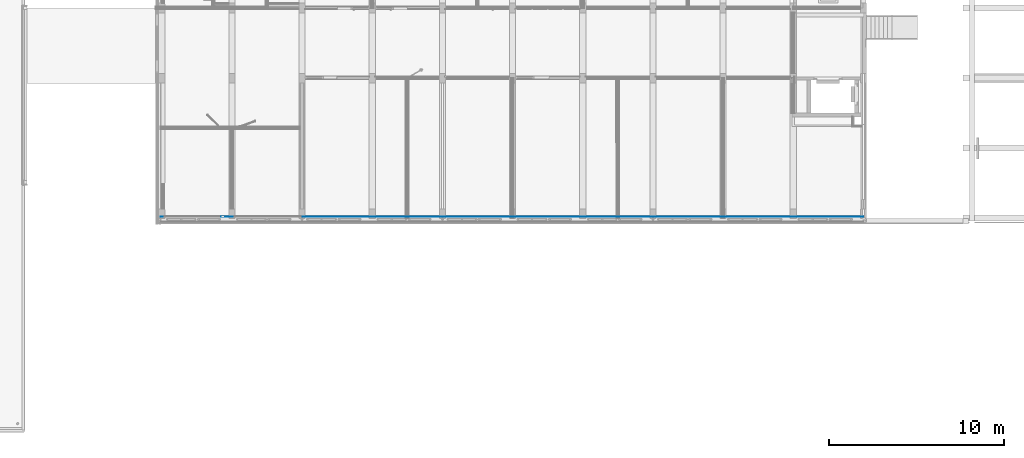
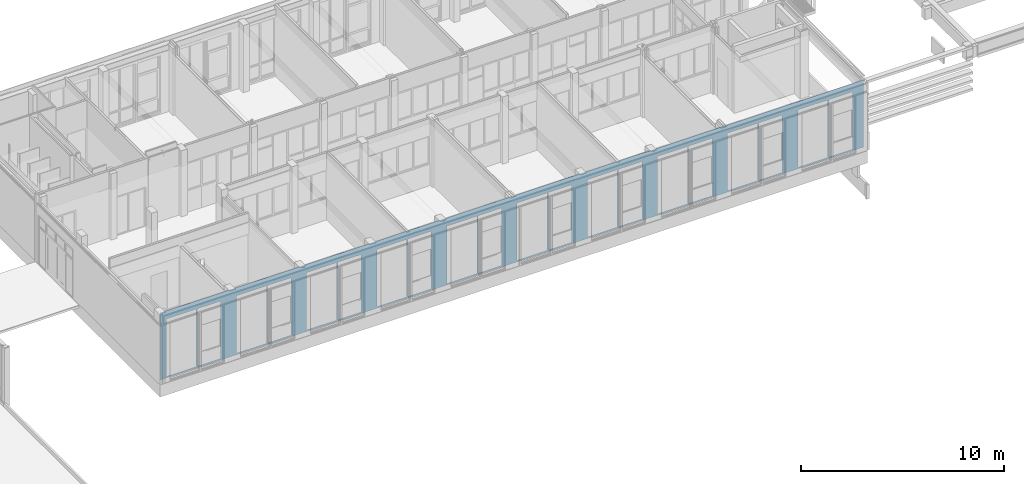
# One storey, part 29 of 54: 1 building element part, 20 openings, 1 element without a shape of its own.
"""IFC2X3 building model written with IfcOpenShell, lengths in millimetres."""

from ifc_helpers import new_model, entity, si_unit, converted_unit, derived_unit, money_unit, direction, frame, origin_with_axes, place, context, subcontext, project, spatial, faceted_brep, material, type_object, element, aggregate, save


model = new_model("IFC2X3")

# Units and contexts
model_context = context("Model", 3, precision=0.01, world=origin_with_axes(), true_north=direction((0.0, 1.0)))
body_context = subcontext(model_context, "Body", "Model", "MODEL_VIEW")
ifc_project = project(units=[si_unit("LENGTHUNIT", "METRE", prefix="MILLI"), si_unit("AREAUNIT", "SQUARE_METRE"), si_unit("VOLUMEUNIT", "CUBIC_METRE"), converted_unit("PLANEANGLEUNIT", "DEGREE", entity("IfcPlaneAngleMeasure", 0.0174532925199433), si_unit("PLANEANGLEUNIT", "RADIAN"), dimensions=[0, 0, 0, 0, 0, 0, 0]), money_unit("EUR"), converted_unit("TIMEUNIT", "Year", entity("IfcTimeMeasure", 31557600.0), si_unit("TIMEUNIT", "SECOND"), dimensions=[0, 0, 1, 0, 0, 0, 0]), si_unit("MASSUNIT", "GRAM", prefix="KILO"), si_unit("THERMODYNAMICTEMPERATUREUNIT", "DEGREE_CELSIUS"), si_unit("LUMINOUSINTENSITYUNIT", "LUMEN"), si_unit("ENERGYUNIT", "JOULE", prefix="MEGA"), derived_unit("THERMALCONDUCTANCEUNIT", [(si_unit("POWERUNIT", "WATT"), 1), (si_unit("LENGTHUNIT", "METRE"), -1), (si_unit("THERMODYNAMICTEMPERATUREUNIT", "KELVIN"), -1)]), derived_unit("SPECIFICHEATCAPACITYUNIT", [(si_unit("ENERGYUNIT", "JOULE"), 1), (si_unit("MASSUNIT", "GRAM", prefix="KILO"), -1), (si_unit("THERMODYNAMICTEMPERATUREUNIT", "KELVIN"), -1)]), derived_unit("MASSDENSITYUNIT", [(si_unit("MASSUNIT", "GRAM", prefix="KILO"), 1), (si_unit("VOLUMEUNIT", "CUBIC_METRE"), -1)])], contexts=[model_context])

# Site, building, storey
site_placement = place(None, origin_with_axes())
site = spatial("IfcSite", under=ifc_project, at=site_placement, Name="<site naam>", CompositionType="ELEMENT")
building_placement = place(site_placement, origin_with_axes())
building = spatial("IfcBuilding", under=site, at=building_placement, Name="<Naam gebouw>", CompositionType="ELEMENT")
storey_placement = place(building_placement, frame((0.0, 0.0, 8500.0), z_axis=(0.0, 0.0, 1.0), x_axis=(1.0, 0.0, 0.0)))
storey = spatial("IfcBuildingStorey", under=building, at=storey_placement, Name="02 2e verdieping", CompositionType="ELEMENT", Elevation=8500.0)

# Wall, openings, building element part
wall_type = type_object("IfcWallType", Name="HSB_285 gevelbeplating 420", PredefinedType="NOTDEFINED")
wall_placement = place(storey_placement, frame((52000.00000000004, -298.0000000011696, 0.0), z_axis=(0.0, 0.0, 1.0), x_axis=(-1.0, 0.0, 0.0)))
wall = element("IfcWall", 1, at=wall_placement, inside=storey, type_object=wall_type, Name="21_Binnenwand_HSB_285")
opening_1_placement = place(wall_placement, frame((38888.99998871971, 0.0, 99.99999999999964), z_axis=(0.0, 0.0, 1.0), x_axis=(1.0, 0.0, 0.0)))
element("IfcOpeningElement", 2, at=opening_1_placement, cuts=wall, Name="21_BU-A-22a_305", context=body_context, shape_type="Brep", body=[
    faceted_brep([(-850.9999999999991, -212.9999999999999, 0.0), (-850.9999999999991, -212.9999999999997, 3450.000000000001), (-850.9999999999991, 1.000000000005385, 3450.000000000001), (-850.9999999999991, 1.000000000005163, 0.0), (-850.9999999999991, -421.0000000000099, 0.0), (-850.9999999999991, -421.0000000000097, 3450.000000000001), (850.9999999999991, -212.9999999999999, 3450.000000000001), (851.0000000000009, 1.000000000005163, 3450.000000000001), (851.0000000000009, 1.000000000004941, 0.0), (850.9999999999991, -213.0000000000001, 0.0), (850.9999999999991, -421.00000000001, 0.0), (850.9999999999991, -421.0000000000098, 3450.000000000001)], [[[0, 1, 2, 3]], [[1, 0, 4, 5]], [[1, 6, 7, 2]], [[7, 8, 3, 2]], [[9, 0, 3, 8]], [[0, 9, 10, 4]], [[5, 4, 10, 11]], [[6, 1, 5, 11]], [[6, 9, 8, 7]], [[9, 6, 11, 10]]]),
])
opening_2_placement = place(wall_placement, frame((37298.99999999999, 0.0, 99.99999999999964), z_axis=(0.0, 0.0, 1.0), x_axis=(1.0, 0.0, 0.0)))
element("IfcOpeningElement", 3, at=opening_2_placement, cuts=wall, Name="21_BU-A-22b_305", context=body_context, shape_type="Brep", body=[
    faceted_brep([(-663.0000000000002, -212.9999999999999, 0.0), (-663.0000000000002, -212.9999999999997, 3450.000000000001), (-663.0000000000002, 1.000000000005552, 3450.000000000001), (-663.0000000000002, 1.00000000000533, 0.0), (-663.0000000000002, -421.0000000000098, 0.0), (-663.0000000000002, -421.0000000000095, 3450.000000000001), (663.0000000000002, -212.9999999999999, 3450.000000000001), (663.0000000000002, 1.000000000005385, 3450.000000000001), (663.0000000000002, 1.000000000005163, 0.0), (663.0000000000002, -213.0000000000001, 0.0), (663.0000000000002, -421.0000000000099, 0.0), (663.0000000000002, -421.0000000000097, 3450.000000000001)], [[[0, 1, 2, 3]], [[1, 0, 4, 5]], [[1, 6, 7, 2]], [[7, 8, 3, 2]], [[9, 0, 3, 8]], [[0, 9, 10, 4]], [[5, 4, 10, 11]], [[6, 1, 5, 11]], [[6, 9, 8, 7]], [[9, 6, 11, 10]]]),
])
opening_3_placement = place(wall_placement, frame((33298.99999999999, 0.0, 99.99999999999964), z_axis=(0.0, 0.0, 1.0), x_axis=(1.0, 0.0, 0.0)))
element("IfcOpeningElement", 4, at=opening_3_placement, cuts=wall, Name="21_BU-A-22b_305", context=body_context, shape_type="Brep", body=[
    faceted_brep([(-663.0000000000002, -212.9999999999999, 0.0), (-663.0000000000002, -212.9999999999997, 3450.000000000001), (-663.0000000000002, 1.000000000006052, 3450.000000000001), (-663.0000000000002, 1.00000000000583, 0.0), (-663.0000000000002, -421.0000000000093, 0.0), (-663.0000000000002, -421.000000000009, 3450.000000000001), (663.0000000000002, -212.9999999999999, 3450.000000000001), (663.0000000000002, 1.000000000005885, 3450.000000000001), (663.0000000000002, 1.000000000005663, 0.0), (663.0000000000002, -213.0000000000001, 0.0), (663.0000000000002, -421.0000000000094, 0.0), (663.0000000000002, -421.0000000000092, 3450.000000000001)], [[[0, 1, 2, 3]], [[1, 0, 4, 5]], [[1, 6, 7, 2]], [[7, 8, 3, 2]], [[9, 0, 3, 8]], [[0, 9, 10, 4]], [[5, 4, 10, 11]], [[6, 1, 5, 11]], [[6, 9, 8, 7]], [[9, 6, 11, 10]]]),
])
opening_4_placement = place(wall_placement, frame((34888.99998871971, 0.0, 99.99999999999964), z_axis=(0.0, 0.0, 1.0), x_axis=(1.0, 0.0, 0.0)))
element("IfcOpeningElement", 5, at=opening_4_placement, cuts=wall, Name="21_BU-A-22a_305", context=body_context, shape_type="Brep", body=[
    faceted_brep([(-850.9999999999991, -212.9999999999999, 0.0), (-850.9999999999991, -212.9999999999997, 3450.000000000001), (-850.9999999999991, 1.000000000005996, 3450.000000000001), (-850.9999999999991, 1.000000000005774, 0.0), (-850.9999999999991, -421.0000000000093, 0.0), (-850.9999999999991, -421.0000000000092, 3450.000000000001), (850.9999999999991, -212.9999999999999, 3450.000000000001), (850.9999999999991, 1.000000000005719, 3450.000000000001), (850.9999999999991, 1.000000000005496, 0.0), (850.9999999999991, -213.0000000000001, 0.0), (850.9999999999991, -421.0000000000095, 0.0), (850.9999999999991, -421.0000000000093, 3450.000000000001)], [[[0, 1, 2, 3]], [[1, 0, 4, 5]], [[1, 6, 7, 2]], [[7, 8, 3, 2]], [[9, 0, 3, 8]], [[0, 9, 10, 4]], [[5, 4, 10, 11]], [[6, 1, 5, 11]], [[6, 9, 8, 7]], [[9, 6, 11, 10]]]),
])
opening_5_placement = place(wall_placement, frame((18888.99998871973, 0.0, 99.99999999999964), z_axis=(0.0, 0.0, 1.0), x_axis=(1.0, 0.0, 0.0)))
element("IfcOpeningElement", 6, at=opening_5_placement, cuts=wall, Name="21_BU-A-22a_305", context=body_context, shape_type="Brep", body=[
    faceted_brep([(-850.9999999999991, -212.9999999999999, 0.0), (-850.9999999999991, -212.9999999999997, 3450.000000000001), (-850.9999999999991, 1.000000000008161, 3450.000000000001), (-850.9999999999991, 1.000000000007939, 0.0), (-850.9999999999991, -421.0000000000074, 0.0), (-850.9999999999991, -421.0000000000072, 3450.000000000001), (850.9999999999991, -212.9999999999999, 3450.000000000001), (850.9999999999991, 1.000000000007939, 3450.000000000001), (850.9999999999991, 1.000000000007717, 0.0), (850.9999999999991, -213.0000000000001, 0.0), (850.9999999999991, -421.0000000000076, 0.0), (850.9999999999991, -421.0000000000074, 3450.000000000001)], [[[0, 1, 2, 3]], [[1, 0, 4, 5]], [[1, 6, 7, 2]], [[7, 8, 3, 2]], [[9, 0, 3, 8]], [[0, 9, 10, 4]], [[5, 4, 10, 11]], [[6, 1, 5, 11]], [[6, 9, 8, 7]], [[9, 6, 11, 10]]]),
])
opening_6_placement = place(wall_placement, frame((22888.98053643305, 0.0, 99.99999999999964), z_axis=(0.0, 0.0, 1.0), x_axis=(1.0, 0.0, 0.0)))
element("IfcOpeningElement", 7, at=opening_6_placement, cuts=wall, Name="21_BU-A-22a_305", context=body_context, shape_type="Brep", body=[
    faceted_brep([(-850.9999999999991, -212.9999999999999, 0.0), (-850.9999999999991, -212.9999999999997, 3450.000000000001), (-850.9999999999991, 1.000000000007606, 3450.000000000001), (-850.9999999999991, 1.000000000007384, 0.0), (-850.9999999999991, -421.0000000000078, 0.0), (-850.9999999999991, -421.0000000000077, 3450.000000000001), (850.9999999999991, -212.9999999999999, 3450.000000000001), (850.9999999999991, 1.000000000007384, 3450.000000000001), (850.9999999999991, 1.000000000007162, 0.0), (850.9999999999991, -213.0000000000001, 0.0), (850.9999999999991, -421.0000000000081, 0.0), (850.9999999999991, -421.0000000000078, 3450.000000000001)], [[[0, 1, 2, 3]], [[1, 0, 4, 5]], [[1, 6, 7, 2]], [[7, 8, 3, 2]], [[9, 0, 3, 8]], [[0, 9, 10, 4]], [[5, 4, 10, 11]], [[6, 1, 5, 11]], [[6, 9, 8, 7]], [[9, 6, 11, 10]]]),
])
opening_7_placement = place(wall_placement, frame((17299.00000000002, 0.0, 99.99999999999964), z_axis=(0.0, 0.0, 1.0), x_axis=(1.0, 0.0, 0.0)))
element("IfcOpeningElement", 8, at=opening_7_placement, cuts=wall, Name="21_BU-A-22b_305", context=body_context, shape_type="Brep", body=[
    faceted_brep([(-662.9999999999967, -212.9999999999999, 0.0), (-662.9999999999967, -212.9999999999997, 3450.000000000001), (-662.9999999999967, 1.000000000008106, 3450.000000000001), (-662.9999999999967, 1.000000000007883, 0.0), (-662.9999999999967, -421.0000000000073, 0.0), (-662.9999999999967, -421.000000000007, 3450.000000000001), (662.9999999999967, -212.9999999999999, 3450.000000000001), (662.9999999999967, 1.000000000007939, 3450.000000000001), (662.9999999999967, 1.000000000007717, 0.0), (662.9999999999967, -213.0000000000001, 0.0), (662.9999999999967, -421.0000000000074, 0.0), (662.9999999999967, -421.0000000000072, 3450.000000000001)], [[[0, 1, 2, 3]], [[1, 0, 4, 5]], [[1, 6, 7, 2]], [[7, 8, 3, 2]], [[9, 0, 3, 8]], [[0, 9, 10, 4]], [[5, 4, 10, 11]], [[6, 1, 5, 11]], [[6, 9, 8, 7]], [[9, 6, 11, 10]]]),
])
opening_8_placement = place(wall_placement, frame((26888.98052515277, 0.0, 99.99999999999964), z_axis=(0.0, 0.0, 1.0), x_axis=(1.0, 0.0, 0.0)))
element("IfcOpeningElement", 9, at=opening_8_placement, cuts=wall, Name="21_BU-A-22a_305", context=body_context, shape_type="Brep", body=[
    faceted_brep([(-850.9999999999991, -212.9999999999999, 0.0), (-850.9999999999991, -212.9999999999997, 3450.000000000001), (-850.9999999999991, 1.000000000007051, 3450.000000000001), (-850.9999999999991, 1.000000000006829, 0.0), (-850.9999999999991, -421.0000000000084, 0.0), (-850.9999999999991, -421.0000000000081, 3450.000000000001), (850.9999999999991, -212.9999999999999, 3450.000000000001), (850.9999999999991, 1.000000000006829, 3450.000000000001), (850.9999999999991, 1.000000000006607, 0.0), (850.9999999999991, -213.0000000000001, 0.0), (850.9999999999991, -421.0000000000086, 0.0), (850.9999999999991, -421.0000000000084, 3450.000000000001)], [[[0, 1, 2, 3]], [[1, 0, 4, 5]], [[1, 6, 7, 2]], [[7, 8, 3, 2]], [[9, 0, 3, 8]], [[0, 9, 10, 4]], [[5, 4, 10, 11]], [[6, 1, 5, 11]], [[6, 9, 8, 7]], [[9, 6, 11, 10]]]),
])
opening_9_placement = place(wall_placement, frame((21298.98054771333, 0.0, 99.99999999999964), z_axis=(0.0, 0.0, 1.0), x_axis=(1.0, 0.0, 0.0)))
element("IfcOpeningElement", 10, at=opening_9_placement, cuts=wall, Name="21_BU-A-22b_305", context=body_context, shape_type="Brep", body=[
    faceted_brep([(-663.0000000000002, -212.9999999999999, 0.0), (-663.0000000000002, -212.9999999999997, 3450.000000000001), (-663.0000000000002, 1.000000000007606, 3450.000000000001), (-663.0000000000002, 1.000000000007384, 0.0), (-663.0000000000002, -421.0000000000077, 0.0), (-663.0000000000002, -421.0000000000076, 3450.000000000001), (663.0000000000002, -212.9999999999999, 3450.000000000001), (663.0000000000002, 1.000000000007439, 3450.000000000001), (663.0000000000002, 1.000000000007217, 0.0), (663.0000000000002, -213.0000000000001, 0.0), (663.0000000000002, -421.0000000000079, 0.0), (663.0000000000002, -421.0000000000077, 3450.000000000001)], [[[0, 1, 2, 3]], [[1, 0, 4, 5]], [[1, 6, 7, 2]], [[7, 8, 3, 2]], [[9, 0, 3, 8]], [[0, 9, 10, 4]], [[5, 4, 10, 11]], [[6, 1, 5, 11]], [[6, 9, 8, 7]], [[9, 6, 11, 10]]]),
])
opening_10_placement = place(wall_placement, frame((10889.00000000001, 0.0, 99.99999999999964), z_axis=(0.0, 0.0, 1.0), x_axis=(1.0, 0.0, 0.0)))
element("IfcOpeningElement", 11, at=opening_10_placement, cuts=wall, Name="21_BU-A-22a_305", context=body_context, shape_type="Brep", body=[
    faceted_brep([(-850.9999999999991, -212.9999999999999, 0.0), (-850.9999999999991, -212.9999999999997, 3450.000000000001), (-850.9999999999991, 1.000000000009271, 3450.000000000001), (-850.9999999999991, 1.000000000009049, 0.0), (-850.9999999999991, -421.0000000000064, 0.0), (-850.9999999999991, -421.0000000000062, 3450.000000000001), (850.9999999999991, -212.9999999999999, 3450.000000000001), (850.9999999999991, 1.000000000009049, 3450.000000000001), (850.9999999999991, 1.000000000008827, 0.0), (850.9999999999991, -213.0000000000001, 0.0), (850.9999999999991, -421.0000000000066, 0.0), (850.9999999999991, -421.0000000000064, 3450.000000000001)], [[[0, 1, 2, 3]], [[1, 0, 4, 5]], [[1, 6, 7, 2]], [[7, 8, 3, 2]], [[9, 0, 3, 8]], [[0, 9, 10, 4]], [[5, 4, 10, 11]], [[6, 1, 5, 11]], [[6, 9, 8, 7]], [[9, 6, 11, 10]]]),
])
opening_11_placement = place(wall_placement, frame((25298.98053643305, 0.0, 99.99999999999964), z_axis=(0.0, 0.0, 1.0), x_axis=(1.0, 0.0, 0.0)))
element("IfcOpeningElement", 12, at=opening_11_placement, cuts=wall, Name="21_BU-A-22b_305", context=body_context, shape_type="Brep", body=[
    faceted_brep([(-663.0000000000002, -212.9999999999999, 0.0), (-663.0000000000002, -212.9999999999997, 3450.000000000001), (-663.0000000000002, 1.000000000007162, 3450.000000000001), (-663.0000000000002, 1.00000000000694, 0.0), (-663.0000000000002, -421.0000000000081, 0.0), (-663.0000000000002, -421.000000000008, 3450.000000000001), (663.0000000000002, -212.9999999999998, 3450.000000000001), (663.0000000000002, 1.000000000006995, 3450.000000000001), (663.0000000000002, 1.000000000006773, 0.0), (663.0000000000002, -213.0000000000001, 0.0), (663.0000000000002, -421.0000000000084, 0.0), (663.0000000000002, -421.0000000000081, 3450.000000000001)], [[[0, 1, 2, 3]], [[1, 0, 4, 5]], [[1, 6, 7, 2]], [[7, 8, 3, 2]], [[9, 0, 3, 8]], [[0, 9, 10, 4]], [[5, 4, 10, 11]], [[6, 1, 5, 11]], [[6, 9, 8, 7]], [[9, 6, 11, 10]]]),
])
opening_12_placement = place(wall_placement, frame((9299.000011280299, 0.0, 99.99999999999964), z_axis=(0.0, 0.0, 1.0), x_axis=(1.0, 0.0, 0.0)))
element("IfcOpeningElement", 13, at=opening_12_placement, cuts=wall, Name="21_BU-A-22b_305", context=body_context, shape_type="Brep", body=[
    faceted_brep([(-662.9999999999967, -212.9999999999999, 0.0), (-662.9999999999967, -212.9999999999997, 3450.000000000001), (-662.9999999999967, 1.00000000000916, 3450.000000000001), (-662.9999999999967, 1.000000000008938, 0.0), (-662.9999999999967, -421.0000000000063, 0.0), (-662.9999999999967, -421.000000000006, 3450.000000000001), (662.9999999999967, -212.9999999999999, 3450.000000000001), (662.9999999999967, 1.000000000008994, 3450.000000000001), (662.9999999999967, 1.000000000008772, 0.0), (662.9999999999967, -213.0000000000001, 0.0), (662.9999999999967, -421.0000000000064, 0.0), (662.9999999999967, -421.0000000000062, 3450.000000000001)], [[[0, 1, 2, 3]], [[1, 0, 4, 5]], [[1, 6, 7, 2]], [[7, 8, 3, 2]], [[9, 0, 3, 8]], [[0, 9, 10, 4]], [[5, 4, 10, 11]], [[6, 1, 5, 11]], [[6, 9, 8, 7]], [[9, 6, 11, 10]]]),
])
opening_13_placement = place(wall_placement, frame((5299.000011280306, 0.0, 99.99999999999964), z_axis=(0.0, 0.0, 1.0), x_axis=(1.0, 0.0, 0.0)))
element("IfcOpeningElement", 14, at=opening_13_placement, cuts=wall, Name="21_BU-A-22b_305", context=body_context, shape_type="Brep", body=[
    faceted_brep([(-662.9999999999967, -212.9999999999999, 0.0), (-662.9999999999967, -212.9999999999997, 3450.000000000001), (-662.9999999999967, 1.000000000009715, 3450.000000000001), (-662.9999999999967, 1.000000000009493, 0.0), (-662.9999999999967, -421.0000000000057, 0.0), (-662.9999999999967, -421.0000000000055, 3450.000000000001), (662.9999999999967, -212.9999999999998, 3450.000000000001), (662.9999999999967, 1.000000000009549, 3450.000000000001), (662.9999999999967, 1.000000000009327, 0.0), (662.9999999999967, -213.0, 0.0), (662.9999999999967, -421.0000000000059, 0.0), (662.9999999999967, -421.0000000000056, 3450.000000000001)], [[[0, 1, 2, 3]], [[1, 0, 4, 5]], [[1, 6, 7, 2]], [[7, 8, 3, 2]], [[9, 0, 3, 8]], [[0, 9, 10, 4]], [[5, 4, 10, 11]], [[6, 1, 5, 11]], [[6, 9, 8, 7]], [[9, 6, 11, 10]]]),
])
opening_14_placement = place(wall_placement, frame((2889.000000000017, 0.0, 99.99999999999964), z_axis=(0.0, 0.0, 1.0), x_axis=(1.0, 0.0, 0.0)))
element("IfcOpeningElement", 15, at=opening_14_placement, cuts=wall, Name="21_BU-A-22a_305", context=body_context, shape_type="Brep", body=[
    faceted_brep([(-850.9999999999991, -212.9999999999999, 0.0), (-850.9999999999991, -212.9999999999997, 3450.000000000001), (-850.9999999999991, 1.000000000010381, 3450.000000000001), (-850.9999999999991, 1.000000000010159, 0.0), (-850.9999999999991, -421.0000000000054, 0.0), (-850.9999999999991, -421.0000000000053, 3450.000000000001), (850.9999999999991, -212.9999999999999, 3450.000000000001), (850.9999999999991, 1.000000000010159, 3450.000000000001), (850.9999999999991, 1.000000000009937, 0.0), (850.9999999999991, -213.0000000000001, 0.0), (850.9999999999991, -421.0000000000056, 0.0), (850.9999999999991, -421.0000000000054, 3450.000000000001)], [[[0, 1, 2, 3]], [[1, 0, 4, 5]], [[1, 6, 7, 2]], [[7, 8, 3, 2]], [[9, 0, 3, 8]], [[0, 9, 10, 4]], [[5, 4, 10, 11]], [[6, 1, 5, 11]], [[6, 9, 8, 7]], [[9, 6, 11, 10]]]),
])
opening_15_placement = place(wall_placement, frame((6889.000000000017, 0.0, 99.99999999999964), z_axis=(0.0, 0.0, 1.0), x_axis=(1.0, 0.0, 0.0)))
element("IfcOpeningElement", 16, at=opening_15_placement, cuts=wall, Name="21_BU-A-22a_305", context=body_context, shape_type="Brep", body=[
    faceted_brep([(-850.9999999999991, -212.9999999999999, 0.0), (-850.9999999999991, -212.9999999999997, 3450.000000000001), (-850.9999999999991, 1.000000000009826, 3450.000000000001), (-850.9999999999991, 1.000000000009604, 0.0), (-850.9999999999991, -421.0000000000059, 0.0), (-850.9999999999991, -421.0000000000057, 3450.000000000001), (850.9999999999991, -212.9999999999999, 3450.000000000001), (850.9999999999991, 1.000000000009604, 3450.000000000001), (850.9999999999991, 1.000000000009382, 0.0), (850.9999999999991, -213.0000000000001, 0.0), (850.9999999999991, -421.0000000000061, 0.0), (850.9999999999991, -421.0000000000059, 3450.000000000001)], [[[0, 1, 2, 3]], [[1, 0, 4, 5]], [[1, 6, 7, 2]], [[7, 8, 3, 2]], [[9, 0, 3, 8]], [[0, 9, 10, 4]], [[5, 4, 10, 11]], [[6, 1, 5, 11]], [[6, 9, 8, 7]], [[9, 6, 11, 10]]]),
])
opening_16_placement = place(wall_placement, frame((1299.000011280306, 0.0, 99.99999999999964), z_axis=(0.0, 0.0, 1.0), x_axis=(1.0, 0.0, 0.0)))
element("IfcOpeningElement", 17, at=opening_16_placement, cuts=wall, Name="21_BU-A-22b_305", context=body_context, shape_type="Brep", body=[
    faceted_brep([(-662.9999999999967, -212.9999999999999, 0.0), (-662.9999999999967, -212.9999999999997, 3450.000000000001), (-662.9999999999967, 1.000000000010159, 3450.000000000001), (-662.9999999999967, 1.000000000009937, 0.0), (-662.9999999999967, -421.0000000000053, 0.0), (-662.9999999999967, -421.0000000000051, 3450.000000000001), (662.9999999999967, -212.9999999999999, 3450.000000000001), (662.9999999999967, 1.000000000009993, 3450.000000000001), (662.9999999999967, 1.000000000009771, 0.0), (662.9999999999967, -213.0000000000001, 0.0), (662.9999999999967, -421.0000000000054, 0.0), (662.9999999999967, -421.0000000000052, 3450.000000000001)], [[[0, 1, 2, 3]], [[1, 0, 4, 5]], [[1, 6, 7, 2]], [[7, 8, 3, 2]], [[9, 0, 3, 8]], [[0, 9, 10, 4]], [[5, 4, 10, 11]], [[6, 1, 5, 11]], [[6, 9, 8, 7]], [[9, 6, 11, 10]]]),
])
opening_17_placement = place(wall_placement, frame((14889.00000000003, 0.0, 99.99999999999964), z_axis=(0.0, 0.0, 1.0), x_axis=(1.0, 0.0, 0.0)))
element("IfcOpeningElement", 18, at=opening_17_placement, cuts=wall, Name="21_BU-A-22a_305", context=body_context, shape_type="Brep", body=[
    faceted_brep([(-850.9999999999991, -212.9999999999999, 0.0), (-850.9999999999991, -212.9999999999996, 3450.000000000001), (-850.9999999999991, 1.000000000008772, 3450.000000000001), (-850.9999999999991, 1.00000000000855, 0.0), (-850.9999999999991, -421.0000000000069, 0.0), (-850.9999999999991, -421.0000000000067, 3450.000000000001), (850.9999999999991, -212.9999999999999, 3450.000000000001), (850.9999999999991, 1.000000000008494, 3450.000000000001), (850.9999999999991, 1.000000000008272, 0.0), (850.9999999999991, -213.0000000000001, 0.0), (850.9999999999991, -421.0000000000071, 0.0), (850.9999999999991, -421.0000000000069, 3450.000000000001)], [[[0, 1, 2, 3]], [[1, 0, 4, 5]], [[1, 6, 7, 2]], [[7, 8, 3, 2]], [[9, 0, 3, 8]], [[0, 9, 10, 4]], [[5, 4, 10, 11]], [[6, 1, 5, 11]], [[6, 9, 8, 7]], [[9, 6, 11, 10]]]),
])
opening_18_placement = place(wall_placement, frame((13299.00001128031, 0.0, 99.99999999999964), z_axis=(0.0, 0.0, 1.0), x_axis=(1.0, 0.0, 0.0)))
element("IfcOpeningElement", 19, at=opening_18_placement, cuts=wall, Name="21_BU-A-22b_305", context=body_context, shape_type="Brep", body=[
    faceted_brep([(-662.9999999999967, -212.9999999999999, 0.0), (-662.9999999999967, -212.9999999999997, 3450.000000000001), (-662.9999999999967, 1.000000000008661, 3450.000000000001), (-662.9999999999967, 1.000000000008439, 0.0), (-662.9999999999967, -421.0000000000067, 0.0), (-662.9999999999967, -421.0000000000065, 3450.000000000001), (662.9999999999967, -212.9999999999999, 3450.000000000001), (662.9999999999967, 1.000000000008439, 3450.000000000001), (662.9999999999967, 1.000000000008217, 0.0), (662.9999999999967, -213.0000000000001, 0.0), (662.9999999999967, -421.0000000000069, 0.0), (662.9999999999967, -421.0000000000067, 3450.000000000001)], [[[0, 1, 2, 3]], [[1, 0, 4, 5]], [[1, 6, 7, 2]], [[7, 8, 3, 2]], [[9, 0, 3, 8]], [[0, 9, 10, 4]], [[5, 4, 10, 11]], [[6, 1, 5, 11]], [[6, 9, 8, 7]], [[9, 6, 11, 10]]]),
])
opening_19_placement = place(wall_placement, frame((30889.0499771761, 0.0, 99.99999999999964), z_axis=(0.0, 0.0, 1.0), x_axis=(1.0, 0.0, 0.0)))
element("IfcOpeningElement", 20, at=opening_19_placement, cuts=wall, Name="21_BU-A-22a_305", context=body_context, shape_type="Brep", body=[
    faceted_brep([(-850.9999999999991, -212.9999999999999, 0.0), (-850.9999999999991, -212.9999999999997, 3450.000000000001), (-850.9999999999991, 1.000000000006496, 3450.000000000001), (-850.9999999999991, 1.000000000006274, 0.0), (-850.9999999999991, -421.0000000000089, 0.0), (-850.9999999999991, -421.0000000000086, 3450.000000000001), (850.9999999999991, -212.9999999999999, 3450.000000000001), (850.9999999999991, 1.000000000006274, 3450.000000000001), (850.9999999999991, 1.000000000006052, 0.0), (850.9999999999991, -213.0000000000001, 0.0), (850.9999999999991, -421.0000000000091, 0.0), (850.9999999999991, -421.0000000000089, 3450.000000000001)], [[[0, 1, 2, 3]], [[1, 0, 4, 5]], [[1, 6, 7, 2]], [[7, 8, 3, 2]], [[9, 0, 3, 8]], [[0, 9, 10, 4]], [[5, 4, 10, 11]], [[6, 1, 5, 11]], [[6, 9, 8, 7]], [[9, 6, 11, 10]]]),
])
opening_20_placement = place(wall_placement, frame((29299.04998845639, 0.0, 99.99999999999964), z_axis=(0.0, 0.0, 1.0), x_axis=(1.0, 0.0, 0.0)))
element("IfcOpeningElement", 21, at=opening_20_placement, cuts=wall, Name="21_BU-A-22b_305", context=body_context, shape_type="Brep", body=[
    faceted_brep([(-663.0000000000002, -212.9999999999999, 0.0), (-663.0000000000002, -212.9999999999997, 3450.000000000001), (-663.0000000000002, 1.000000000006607, 3450.000000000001), (-663.0000000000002, 1.000000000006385, 0.0), (-663.0000000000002, -421.0000000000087, 0.0), (-663.0000000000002, -421.0000000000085, 3450.000000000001), (663.0000000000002, -212.9999999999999, 3450.000000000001), (663.0000000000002, 1.00000000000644, 3450.000000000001), (663.0000000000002, 1.000000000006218, 0.0), (663.0000000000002, -213.0000000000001, 0.0), (663.0000000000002, -421.0000000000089, 0.0), (663.0000000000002, -421.0000000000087, 3450.000000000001)], [[[0, 1, 2, 3]], [[1, 0, 4, 5]], [[1, 6, 7, 2]], [[7, 8, 3, 2]], [[9, 0, 3, 8]], [[0, 9, 10, 4]], [[5, 4, 10, 11]], [[6, 1, 5, 11]], [[6, 9, 8, 7]], [[9, 6, 11, 10]]]),
])
ifc_material = material(Name="folie_dampdicht")
building_element_part_placement = place(wall_placement, origin_with_axes())
building_element_part = element("IfcBuildingElementPart", 22, at=building_element_part_placement, material=ifc_material, Name="folie_dampdicht", context=body_context, shape_type="Brep", body=[
    faceted_brep([(13925.02697398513, -392.4999999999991, 3.000000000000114), (13925.02697398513, -392.4999999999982, 0.0), (14076.23975822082, -392.4999999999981, 0.0), (14076.23975822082, -392.499999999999, 3.000000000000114), (15825.00000534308, -392.4999999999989, 3.000000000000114), (15825.00000534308, -392.4999999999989, 0.0), (16174.99997236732, -392.4999999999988, 0.0), (16174.99997236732, -392.4999999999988, 3.000000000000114), (19825.00020866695, -392.4999999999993, 3.000000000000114), (19825.00020866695, -392.4999999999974, 0.0), (20174.99995864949, -392.4999999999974, 0.0), (20174.99995864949, -392.4999999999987, 3.000000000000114), (23824.99995976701, -392.4999999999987, 3.000000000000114), (23824.99995976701, -392.4999999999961, 0.0), (24174.98053496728, -392.499999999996, 0.0), (24174.98053496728, -392.4999999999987, 3.000000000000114), (25926.25096336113, -392.4999999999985, 3.000000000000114), (25926.25096336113, -392.4999999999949, 0.0), (32075.00003674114, -392.4999999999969, 0.0), (32075.00003674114, -392.4999999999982, 3.000000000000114), (39849.99994075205, -392.4999999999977, 3.000000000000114), (39849.99994075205, -392.4999999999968, 0.0), (40065.00000000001, -392.4999999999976, 0.0), (40065.00000000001, -392.4999999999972, 4050.000000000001), (0.0, -392.4999999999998, 4050.000000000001), (0.0, -392.4999999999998, 0.0), (135.0000514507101, -392.4999999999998, 0.0), (135.0000514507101, -392.4999999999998, 3.000000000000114), (3825.000117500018, -392.5000000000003, 3.000000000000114), (3825.000117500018, -392.4999999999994, 0.0), (4174.999990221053, -392.4999999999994, 0.0), (4174.999990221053, -392.4999999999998, 3.000000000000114), (7824.999919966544, -392.4999999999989, 3.000000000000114), (7824.999919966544, -392.4999999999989, 0.0), (8174.999918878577, -392.4999999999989, 0.0), (8174.999918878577, -392.4999999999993, 3.000000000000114), (11824.99997859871, -392.4999999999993, 3.000000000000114), (11824.99997859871, -392.4999999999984, 0.0), (12174.99994562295, -392.4999999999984, 0.0), (12174.99994562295, -392.4999999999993, 3.000000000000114), (13925.02697398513, -391.9999999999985, 3.000000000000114), (13925.02697398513, -392.0000000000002, 0.0), (14076.23975822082, -392.0000000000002, 0.0), (14076.23975822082, -391.9999999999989, 3.000000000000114), (15825.00000534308, -391.9999999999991, 3.000000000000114), (15825.00000534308, -392.0, 0.0), (16174.99997236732, -391.9999999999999, 0.0), (16174.99997236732, -391.9999999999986, 3.000000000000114), (19825.00020866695, -391.9999999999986, 3.000000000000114), (19825.00020866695, -391.9999999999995, 0.0), (20174.99995864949, -391.9999999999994, 0.0), (20174.99995864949, -391.9999999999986, 3.000000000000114), (23824.99995976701, -391.9999999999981, 3.000000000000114), (23824.99995976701, -391.9999999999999, 0.0), (24174.98053496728, -391.9999999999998, 0.0), (24174.98053496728, -391.9999999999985, 3.000000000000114), (25926.25096336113, -391.9999999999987, 3.000000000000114), (25926.25096336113, -392.0000000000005, 0.0), (32075.00003662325, -392.0000000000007, 0.0), (32075.00003662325, -391.999999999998, 3.000000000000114), (39849.99994075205, -391.9999999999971, 3.000000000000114), (39849.99994075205, -391.999999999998, 0.0), (40065.00000000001, -391.9999999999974, 0.0), (40065.00000000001, -391.9999999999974, 4050.000000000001), (0.0, -391.9999999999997, 4050.000000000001), (0.0, -392.0000000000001, 0.0), (135.0000514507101, -392.0000000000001, 0.0), (135.0000514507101, -391.9999999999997, 3.000000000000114), (3825.000117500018, -391.9999999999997, 3.000000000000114), (3825.000117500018, -392.0000000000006, 0.0), (4174.999990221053, -392.0000000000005, 0.0), (4174.999990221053, -391.9999999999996, 3.000000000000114), (7824.999919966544, -391.9999999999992, 3.000000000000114), (7824.999919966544, -392.000000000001, 0.0), (8174.999918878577, -392.0000000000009, 0.0), (8174.999918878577, -391.9999999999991, 3.000000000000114), (11824.99997859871, -391.9999999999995, 3.000000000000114), (11824.99997859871, -392.0000000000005, 0.0), (12174.99994562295, -392.0000000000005, 0.0), (12174.99994562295, -391.9999999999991, 3.000000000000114)], [[[0, 1, 2, 3, 4, 5, 6, 7, 8, 9, 10, 11, 12, 13, 14, 15, 16, 17, 18, 19, 20, 21, 22, 23, 24, 25, 26, 27, 28, 29, 30, 31, 32, 33, 34, 35, 36, 37, 38, 39]], [[1, 0, 40, 41]], [[1, 41, 42, 2]], [[3, 2, 42, 43]], [[4, 3, 43, 44]], [[5, 4, 44, 45]], [[46, 6, 5, 45]], [[7, 6, 46, 47]], [[8, 7, 47, 48]], [[9, 8, 48, 49]], [[50, 10, 9, 49]], [[11, 10, 50, 51]], [[12, 11, 51, 52]], [[13, 12, 52, 53]], [[54, 14, 13, 53]], [[15, 14, 54, 55]], [[16, 15, 55, 56]], [[17, 16, 56, 57]], [[17, 57, 58, 18]], [[19, 18, 58, 59]], [[20, 19, 59, 60]], [[21, 20, 60, 61]], [[21, 61, 62, 22]], [[63, 23, 22, 62]], [[24, 23, 63, 64]], [[25, 24, 64, 65]], [[66, 26, 25, 65]], [[27, 26, 66, 67]], [[28, 27, 67, 68]], [[29, 28, 68, 69]], [[70, 30, 29, 69]], [[31, 30, 70, 71]], [[32, 31, 71, 72]], [[33, 32, 72, 73]], [[74, 34, 33, 73]], [[35, 34, 74, 75]], [[36, 35, 75, 76]], [[37, 36, 76, 77]], [[78, 38, 37, 77]], [[39, 38, 78, 79]], [[0, 39, 79, 40]], [[79, 78, 77, 76, 75, 74, 73, 72, 71, 70, 69, 68, 67, 66, 65, 64, 63, 62, 61, 60, 59, 58, 57, 56, 55, 54, 53, 52, 51, 50, 49, 48, 47, 46, 45, 44, 43, 42, 41, 40]]]),
])
aggregate(wall, [building_element_part])

save(model, "model.ifc")
